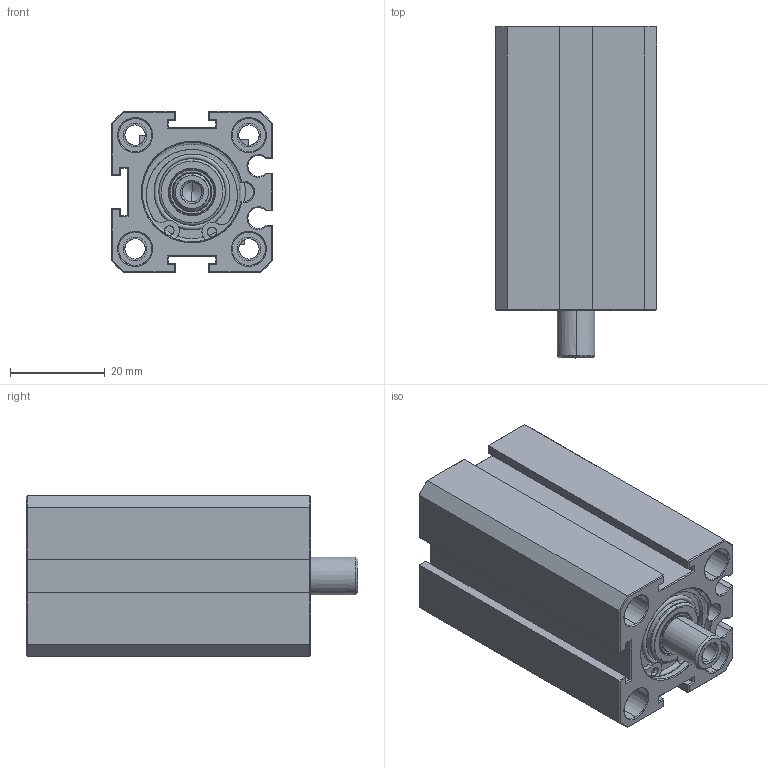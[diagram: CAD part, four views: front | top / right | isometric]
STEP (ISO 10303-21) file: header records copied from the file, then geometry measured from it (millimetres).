
FILE_DESCRIPTION((''),'2;1');
FILE_NAME('3D-NDFOCL20X5','2014-01-18T',('yfs-01'),('foxconn'),'PRO/ENGINEER BY PARAMETRIC TECHNOLOGY CORPORATION, 2007230','PRO/ENGINEER BY PARAMETRIC TECHNOLOGY CORPORATION, 2007230','');
FILE_SCHEMA(('CONFIG_CONTROL_DESIGN'));
Products named in the file (1): 3D-NDFOCL20X5
Bounding box: 34 x 70 x 34 mm (x, y, z)
Surface area: 26515.8 mm2 (no closed solid volume)
Topology: 0 solids, 0 shells, 470 faces, 2235 edges, 2210 vertices
Faces by surface type: bspline 447, torus 23
Entity records: 58655 total; most frequent: CARTESIAN_POINT 35241, DIRECTION 3921, TRIMMED_CURVE 3272, VECTOR 2669, LINE 2669, DEFINITIONAL_REPRESENTATION 2187, PCURVE 2187, COMPOSITE_CURVE_SEGMENT 2187
